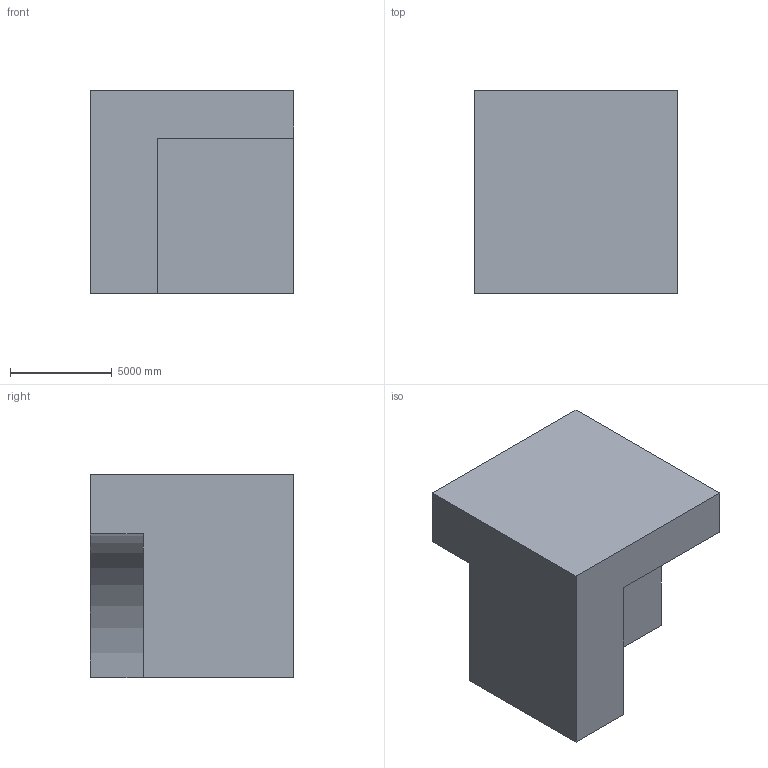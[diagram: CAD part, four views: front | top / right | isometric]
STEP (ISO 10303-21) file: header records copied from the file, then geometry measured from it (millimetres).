
FILE_DESCRIPTION (( 'STEP AP203' ), '1' );
FILE_NAME ('7.STEP', '2022-09-02T13:39:15', ( 'user' ), ( '' ), 'SwSTEP 2.0', 'SolidWorks 2021', '' );
FILE_SCHEMA (( 'CONFIG_CONTROL_DESIGN' ));
Length unit declared in the file: centimetre
Products named in the file (1): 7
Bounding box: 10000 x 10000 x 10000 mm (x, y, z)
Volume: 690092369935.2 mm3; surface area: 592095803.9 mm2
Topology: 1 solids, 1 shells, 11 faces, 27 edges, 18 vertices
Faces by surface type: plane 10, cylinder 1
Entity records: 400 total; most frequent: CARTESIAN_POINT 57, ORIENTED_EDGE 54, DIRECTION 53, EDGE_CURVE 27, VECTOR 25, LINE 25, VERTEX_POINT 18, AXIS2_PLACEMENT_3D 14
